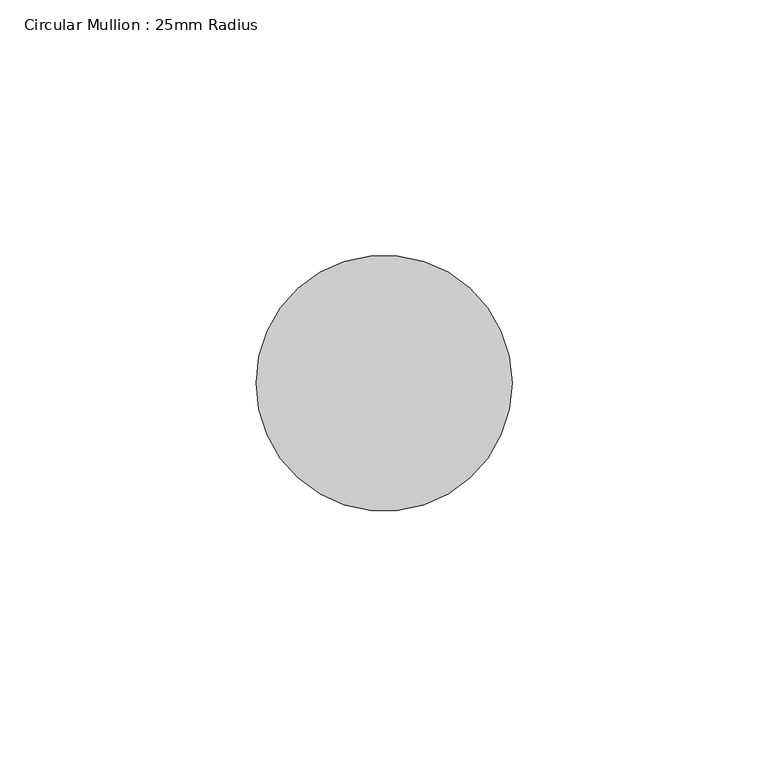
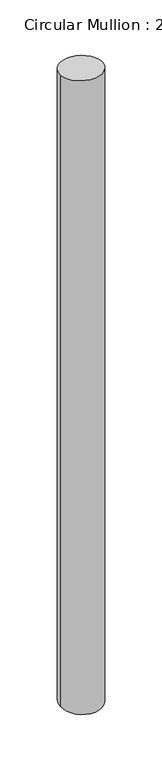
"""IFC4 building model written with IfcOpenShell, lengths in millimetres: member geometry, Circular Mullion : 25mm Radius."""

import ifcopenshell
import ifcopenshell.guid

model = None  # the IFC model being written
_history = None  # IfcOwnerHistory: only IFC2X3 demands one
_inside = {}  # id of a spatial element -> (the spatial element, [elements in it])
_under = {}  # id of a project, library or spatial element -> (it, [spatial elements below it])
_declared = {}  # id of a project -> (the project, [libraries it declares])
_typed = {}  # id of a type object -> (the type object, [elements of that type])
_made_of = {}  # id of a material, layer set ... -> (it, [elements and type objects made of it])


def new_model(schema):
    """Start an empty IFC model of exactly this schema.

    Asked for "IFC4X3", IfcOpenShell would pick the latest addendum, in which some entities
    have other attributes; the version numbers below select the first issue.
    IFC2X3 requires an IfcOwnerHistory on every rooted entity: one is made here for all.
    """
    global model, _history
    if schema == "IFC4X3":
        model = ifcopenshell.file(schema_version=(4, 3, 0, 0))
    else:
        model = ifcopenshell.file(schema=schema)
    _inside.clear()
    _under.clear()
    _declared.clear()
    _typed.clear()
    _made_of.clear()
    _history = None
    if model.schema == "IFC2X3":
        org = make("IfcOrganization", Name="unknown")
        user = make(
            "IfcPersonAndOrganization",
            ThePerson=make("IfcPerson", FamilyName="unknown"),
            TheOrganization=org,
        )
        app = make(
            "IfcApplication",
            ApplicationDeveloper=org,
            Version="unknown",
            ApplicationFullName="unknown",
            ApplicationIdentifier="unknown",
        )
        _history = make(
            "IfcOwnerHistory",
            OwningUser=user,
            OwningApplication=app,
            ChangeAction="ADDED",
            CreationDate=0,
        )
    return model


def make(cls, **values):
    """One entity of the class cls with the attributes given. An attribute that is None is left unset."""
    return model.create_entity(
        cls, **{name: value for name, value in values.items() if value is not None}
    )


def rooted(cls, **values):
    """An entity with a GlobalId (a new one), such as an element, a storey or a relation."""
    return make(cls, GlobalId=ifcopenshell.guid.new(), OwnerHistory=_history, **values)


def si_unit(unit_type, name, prefix=None):
    """IfcSIUnit, for example si_unit("LENGTHUNIT", "METRE", prefix="MILLI")."""
    return make("IfcSIUnit", UnitType=unit_type, Prefix=prefix, Name=name)


def assignment(units):
    """IfcUnitAssignment: the units of a project."""
    return None if units is None else make("IfcUnitAssignment", Units=units)


def point(xyz):
    """IfcCartesianPoint."""
    return None if xyz is None else make("IfcCartesianPoint", Coordinates=xyz)


def direction(xyz):
    """IfcDirection."""
    return None if xyz is None else make("IfcDirection", DirectionRatios=xyz)


def frame(location, z_axis=None, x_axis=None):
    """IfcAxis2Placement3D, a coordinate frame: its origin and axes. An axis left out is left unset."""
    return make(
        "IfcAxis2Placement3D",
        Location=point(location),
        Axis=direction(z_axis),
        RefDirection=direction(x_axis),
    )


def origin():
    """The frame at (0, 0, 0) with its axes left unset."""
    return frame((0.0, 0.0, 0.0))


def place(relative_to, where):
    """IfcLocalPlacement: puts the frame where relative to a parent placement (None: the world)."""
    return make(
        "IfcLocalPlacement", PlacementRelTo=relative_to, RelativePlacement=where
    )


def context(
    kind, dimensions, precision=None, world=None, true_north=None, identifier=None
):
    """IfcGeometricRepresentationContext, for example the 3D "Model" context."""
    return make(
        "IfcGeometricRepresentationContext",
        ContextIdentifier=identifier,
        ContextType=kind,
        CoordinateSpaceDimension=dimensions,
        Precision=precision,
        WorldCoordinateSystem=world,
        TrueNorth=true_north,
    )


def project(units=None, contexts=None):
    """IfcProject with its units and contexts."""
    return rooted(
        "IfcProject",
        Name="project",
        RepresentationContexts=contexts,
        UnitsInContext=assignment(units),
    )


def spatial(cls, under=None, at=None, **own):
    """A site, building, storey or space (cls), placed at a placement, below another one or the project."""
    s = rooted(cls, ObjectPlacement=at, **own)
    if under is not None:
        _under.setdefault(under.id(), (under, []))[1].append(s)
    return s


def ellipse_curve(where, semi_axis1, semi_axis2):
    """IfcEllipse in the frame where."""
    return make(
        "IfcEllipse", Position=where, SemiAxis1=semi_axis1, SemiAxis2=semi_axis2
    )


def shape(context_of_items, identifier, shape_type, items):
    """IfcShapeRepresentation: the items that make up one representation, for example the "Body"."""
    return make(
        "IfcShapeRepresentation",
        ContextOfItems=context_of_items,
        RepresentationIdentifier=identifier,
        RepresentationType=shape_type,
        Items=items,
    )


def source(mapping_origin, context_of_items, identifier, shape_type, items):
    """IfcRepresentationMap: a shape defined once, which mapped items show again and again."""
    return make(
        "IfcRepresentationMap",
        MappingOrigin=mapping_origin,
        MappedRepresentation=shape(context_of_items, identifier, shape_type, items),
    )


def transform(
    local_origin,
    x_axis=None,
    y_axis=None,
    z_axis=None,
    scale=None,
    scale2=None,
    scale3=None,
    uniform=True,
):
    """IfcCartesianTransformationOperator3D, or its non-uniform kind. x_axis, y_axis, z_axis: its Axis1, 2, 3."""
    if uniform:
        return make(
            "IfcCartesianTransformationOperator3D",
            Axis1=direction(x_axis),
            Axis2=direction(y_axis),
            LocalOrigin=point(local_origin),
            Scale=scale,
            Axis3=direction(z_axis),
        )
    return make(
        "IfcCartesianTransformationOperator3DnonUniform",
        Axis1=direction(x_axis),
        Axis2=direction(y_axis),
        LocalOrigin=point(local_origin),
        Scale=scale,
        Axis3=direction(z_axis),
        Scale2=scale2,
        Scale3=scale3,
    )


def mapped(mapping_source, mapping_target):
    """IfcMappedItem: shows the shape of a source again, moved by a transform."""
    return make(
        "IfcMappedItem", MappingSource=mapping_source, MappingTarget=mapping_target
    )


def made_of(thing, what):
    """Note that an element or type object is made of a material, layer set ...; save() writes the relation."""
    if what is not None:
        _made_of.setdefault(what.id(), (what, []))[1].append(thing)
    return thing


def element(
    cls,
    number,
    at=None,
    inside=None,
    cuts=None,
    type_object=None,
    material=None,
    context=None,
    identifier="Body",
    shape_type=None,
    held_by="IfcProductDefinitionShape",
    body=None,
    shapes=None,
    **own,
):
    """One element of the class cls, such as IfcWall. Its Tag is "e" and its number.

    at: its placement. inside: the storey or other place that contains it. cuts: it is an
    opening in that element (IfcRelVoidsElement). A single representation is given by context,
    identifier, shape_type and body (its items); several are given by shapes. held_by: the class
    of the entity that holds the representations. save() writes the other relations.
    """
    e = rooted(cls, Tag="e%d" % number, ObjectPlacement=at, **own)
    if body is not None:
        shapes = [shape(context, identifier, shape_type, body)]
    if shapes is not None:
        e.Representation = make(held_by, Representations=shapes)
    if inside is not None:
        _inside.setdefault(inside.id(), (inside, []))[1].append(e)
    if cuts is not None:
        rooted(
            "IfcRelVoidsElement", RelatingBuildingElement=cuts, RelatedOpeningElement=e
        )
    if type_object is not None:
        _typed.setdefault(type_object.id(), (type_object, []))[1].append(e)
    return made_of(e, material)


def aggregate(whole, parts):
    """IfcRelAggregates: a whole, such as a stair, and the parts it consists of."""
    return rooted("IfcRelAggregates", RelatingObject=whole, RelatedObjects=parts)


def save(model, path):
    """Write the relations noted so far, then the file.

    IfcRelAggregates (storeys below a building ...), IfcRelContainedInSpatialStructure (elements
    in a storey), IfcRelDefinesByType, IfcRelAssociatesMaterial and IfcRelDeclares: one each for
    every whole, place, type object, material and project.
    """
    for whole, parts in _under.values():
        aggregate(whole, parts)
    for where, things in _inside.values():
        rooted(
            "IfcRelContainedInSpatialStructure",
            RelatedElements=things,
            RelatingStructure=where,
        )
    for kind, things in _typed.values():
        rooted("IfcRelDefinesByType", RelatedObjects=things, RelatingType=kind)
    for what, things in _made_of.values():
        rooted("IfcRelAssociatesMaterial", RelatedObjects=things, RelatingMaterial=what)
    for by, libraries in _declared.values():
        rooted("IfcRelDeclares", RelatingContext=by, RelatedDefinitions=libraries)
    model.write(path)


def plane_surface(at):
    """IfcPlane: the flat surface through the origin of the frame at, square to its z axis."""
    return make("IfcPlane", Position=at)


def cylinder_surface(at, radius):
    """IfcCylindricalSurface: all points at the distance radius from the z axis of the frame at."""
    return make("IfcCylindricalSurface", Position=at, Radius=radius)


def advanced_brep(points, edges, surfaces, faces):
    """IfcAdvancedBrep: a solid bounded by faces that lie on surfaces and meet in shared edges.

    An edge is (start, end): straight between two places in points (the first is 0);
    or (start, end, curve); or (start, end, curve, False) where it runs against its curve.
    A face is (place in surfaces, loops), or (place, loops, False) where it looks against
    its surface's normal. A loop lists edges by number (the first is 1), with a minus sign
    where the edge is run from its end to its start. The first loop is the outer one.
    """
    corners = [point(p) for p in points]
    vertices = [make("IfcVertexPoint", VertexGeometry=c) for c in corners]
    made = []
    for start, end, *more in edges:
        made.append(
            make(
                "IfcEdgeCurve",
                EdgeStart=vertices[start],
                EdgeEnd=vertices[end],
                EdgeGeometry=more[0] if more else make("IfcPolyline", Points=[corners[start], corners[end]]),
                SameSense=more[1] if len(more) > 1 else True,
            )
        )
    hull = []
    for where, loops, *sense in faces:
        bounds = []
        for j, loop in enumerate(loops):
            ring = [make("IfcOrientedEdge", EdgeElement=made[abs(k) - 1], Orientation=k > 0) for k in loop]
            bounds.append(
                make(
                    "IfcFaceOuterBound" if j == 0 else "IfcFaceBound",
                    Bound=make("IfcEdgeLoop", EdgeList=ring),
                    Orientation=True,
                )
            )
        hull.append(make("IfcAdvancedFace", Bounds=bounds, FaceSurface=surfaces[where], SameSense=sense[0] if sense else True))
    return make("IfcAdvancedBrep", Outer=make("IfcClosedShell", CfsFaces=hull))


def circular_mullion_25mm_radius_450b6582(model_context):
    return source(origin(), model_context, "Body", "AdvancedBrep", [
        advanced_brep(
        [(-50.0, 0.0, 0.0), (0.0, 0.0, 0.0), (0.0, 0.0, -800.0), (-50.0, 0.0, -800.0)],
        [
            (0, 1, ellipse_curve(frame((-25.0, 0.0, 0.0), z_axis=(0.0, -0.06436439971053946, -0.9979264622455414), x_axis=(0.0, -0.9979264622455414, 0.0643643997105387)), 25.0519462, 25.0)),
            (1, 2),
            (2, 3, ellipse_curve(frame((-25.0, 0.0, -800.0), z_axis=(0.0, -0.09733196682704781, 0.9952519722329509), x_axis=(0.0, 0.9952519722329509, 0.09733196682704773)), 25.119267, 25.0)),
            (3, 0),
            (1, 0, ellipse_curve(frame((-25.0, 0.0, 0.0), z_axis=(0.0, -0.06436439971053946, -0.9979264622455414), x_axis=(0.0, -0.9979264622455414, 0.0643643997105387)), 25.0519462, 25.0)),
            (3, 2, ellipse_curve(frame((-25.0, 0.0, -800.0), z_axis=(0.0, -0.09733196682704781, 0.9952519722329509), x_axis=(0.0, 0.9952519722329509, 0.09733196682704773)), 25.119267, 25.0)),
        ],
        [
            cylinder_surface(frame((-25.0, 0.0, 0.0), z_axis=(0.0, 0.0, 1.0), x_axis=(1.0, 0.0, 0.0)), 25.0),
            plane_surface(frame((-304.8, 0.0, 0.0), z_axis=(0.0, 0.06436439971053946, 0.9979264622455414), x_axis=(0.0, 0.9979264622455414, -0.06436439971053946))),
            plane_surface(frame((-304.8, 0.0, -800.0), z_axis=(0.0, 0.09733196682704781, -0.9952519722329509), x_axis=(0.0, 0.9952519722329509, 0.09733196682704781))),
        ],
        [
            (0, [[1, 2, 3, 4]]),
            (0, [[5, -4, 6, -2]]),
            (1, [[-1, -5]]),
            (2, [[-6, -3]]),
        ],
    ),
    ])


if __name__ == "__main__":
    model = new_model("IFC4")
    model_context = context("Model", 3, world=origin())
    ifc_project = project(units=[si_unit("LENGTHUNIT", "METRE", prefix="MILLI")], contexts=[model_context])
    site = spatial("IfcSite", under=ifc_project)
    building = spatial("IfcBuilding", under=site)
    placement = place(None, origin())
    circular_mullion_25mm_radius_shape = circular_mullion_25mm_radius_450b6582(model_context)
    element("IfcMember", 1, ObjectType="Circular Mullion : 25mm Radius", at=placement, inside=building, context=model_context, shape_type="MappedRepresentation", body=[
        mapped(circular_mullion_25mm_radius_shape, transform((0.0, 0.0, 0.0), x_axis=(1.0, 0.0, 0.0), y_axis=(0.0, 1.0, 0.0), z_axis=(0.0, 0.0, 1.0))),
    ])
    save(model, "model.ifc")
